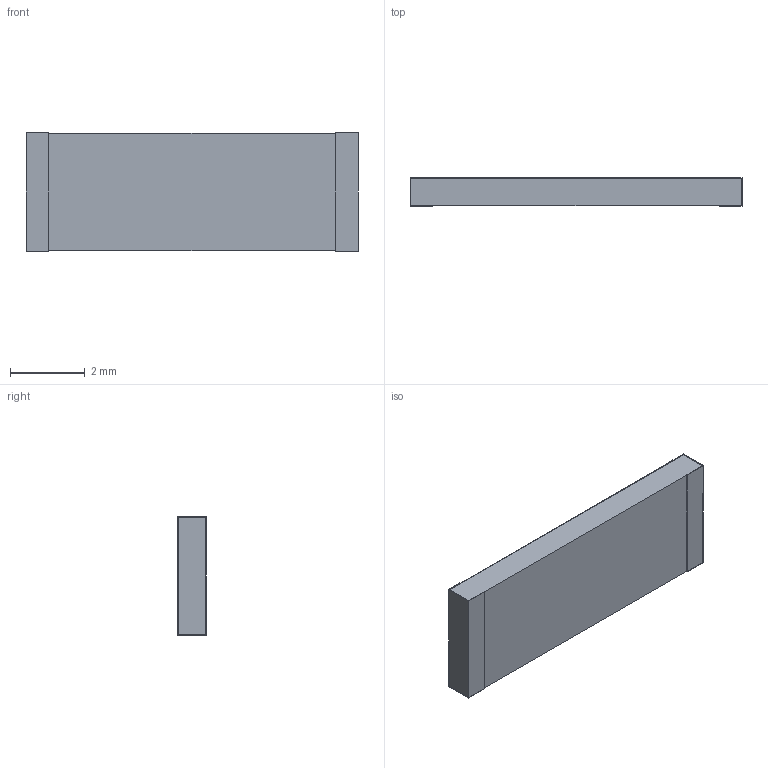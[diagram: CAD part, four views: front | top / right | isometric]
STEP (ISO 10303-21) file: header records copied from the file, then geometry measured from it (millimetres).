
FILE_DESCRIPTION(/* description */ (''),/* implementation_level */ '2;1');
FILE_NAME(/* name */ 'C:\Users\mulla\Documents\Work\SEI Models\Inventor Files\HVC\HVC3512_stp.stp',/* time_stamp */ '2021-07-26T17:29:38-04:00',/* author */ ('mulla'),/* organization */ (''),/* preprocessor_version */ 'ST-DEVELOPER v16.1',/* originating_system */ 'Autodesk Inventor 2016',/* authorisation */ '');
FILE_SCHEMA (('AUTOMOTIVE_DESIGN { 1 0 10303 214 3 1 1 }'));
Length unit declared in the file: millimetre
Products named in the file (1): HVC3512
Bounding box: 8.89 x 0.76 x 3.18 mm (x, y, z)
Volume: 21 mm3; surface area: 147.2 mm2
Topology: 4 solids, 4 shells, 32 faces, 72 edges, 48 vertices
Faces by surface type: plane 32
Entity records: 950 total; most frequent: CARTESIAN_POINT 153, ORIENTED_EDGE 144, DIRECTION 138, LINE 72, VECTOR 72, EDGE_CURVE 72, VERTEX_POINT 48, STYLED_ITEM 36
